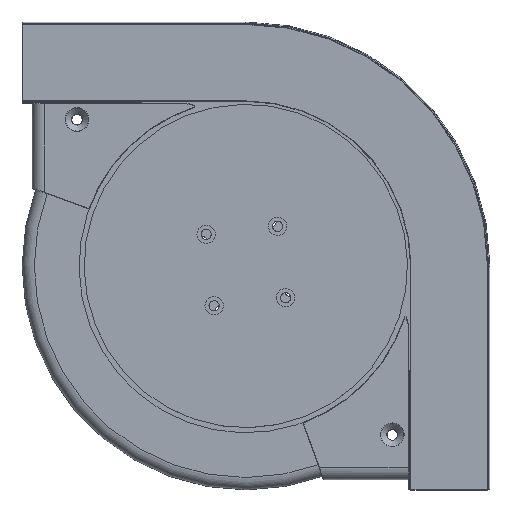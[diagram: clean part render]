
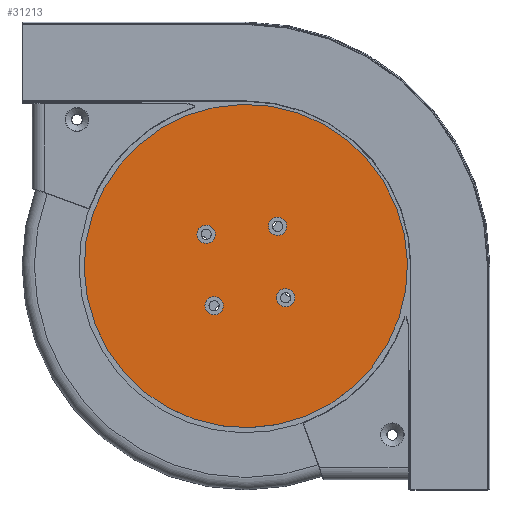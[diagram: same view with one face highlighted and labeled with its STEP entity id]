
A CAD part, top view. The second image highlights one B-rep face of the part: STEP entity #31213.
In plain terms, the highlighted planar face has unit normal (0, 0, 1).
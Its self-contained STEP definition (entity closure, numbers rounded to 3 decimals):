
#30897=CARTESIAN_POINT('',(-97.664,97.902,74.));
#30898=VERTEX_POINT('',#30897);
#30899=CARTESIAN_POINT('',(-100.475,94.387,74.));
#30900=DIRECTION('',(0.,0.,-1.0));
#30901=DIRECTION('',(0.625,0.781,0.));
#30902=AXIS2_PLACEMENT_3D('',#30899,#30900,#30901);
#30903=CIRCLE('',#30902,4.5);
#30904=EDGE_CURVE('',#30898,#30898,#30903,.T.);
#30957=CARTESIAN_POINT('',(-132.098,87.664,74.));
#30958=VERTEX_POINT('',#30957);
#30959=CARTESIAN_POINT('',(-135.613,90.475,74.));
#30960=DIRECTION('',(0.,0.,-1.0));
#30961=DIRECTION('',(0.781,-0.625,0.));
#30962=AXIS2_PLACEMENT_3D('',#30959,#30960,#30961);
#30963=CIRCLE('',#30962,4.5);
#30964=EDGE_CURVE('',#30958,#30958,#30963,.T.);
#31017=CARTESIAN_POINT('',(-142.336,122.098,74.));
#31018=VERTEX_POINT('',#31017);
#31019=CARTESIAN_POINT('',(-139.525,125.613,74.));
#31020=DIRECTION('',(0.,0.,-1.0));
#31021=DIRECTION('',(-0.625,-0.781,0.));
#31022=AXIS2_PLACEMENT_3D('',#31019,#31020,#31021);
#31023=CIRCLE('',#31022,4.5);
#31024=EDGE_CURVE('',#31018,#31018,#31023,.T.);
#31077=CARTESIAN_POINT('',(-107.902,132.336,74.));
#31078=VERTEX_POINT('',#31077);
#31079=CARTESIAN_POINT('',(-104.387,129.525,74.));
#31080=DIRECTION('',(0.,0.,-1.0));
#31081=DIRECTION('',(-0.781,0.625,0.));
#31082=AXIS2_PLACEMENT_3D('',#31079,#31080,#31081);
#31083=CIRCLE('',#31082,4.5);
#31084=EDGE_CURVE('',#31078,#31078,#31083,.T.);
#31178=CARTESIAN_POINT('',(-182.09,159.649,74.));
#31179=VERTEX_POINT('',#31178);
#31180=CARTESIAN_POINT('',(-120.,110.,74.));
#31181=DIRECTION('',(0.,0.,-1.0));
#31182=DIRECTION('',(0.781,-0.625,0.));
#31183=AXIS2_PLACEMENT_3D('',#31180,#31181,#31182);
#31184=CIRCLE('',#31183,79.5);
#31185=EDGE_CURVE('',#31179,#31179,#31184,.T.);
#31193=CARTESIAN_POINT('',(-120.,110.,74.));
#31194=DIRECTION('',(0.0,0.0,-1.0));
#31195=DIRECTION('',(0.781,-0.625,0.0));
#31196=AXIS2_PLACEMENT_3D('',#31193,#31194,#31195);
#31197=PLANE('',#31196);
#31198=ORIENTED_EDGE('',*,*,#31185,.F.);
#31199=EDGE_LOOP('',(#31198));
#31200=FACE_OUTER_BOUND('',#31199,.T.);
#31201=ORIENTED_EDGE('',*,*,#30904,.T.);
#31202=EDGE_LOOP('',(#31201));
#31203=FACE_BOUND('',#31202,.T.);
#31204=ORIENTED_EDGE('',*,*,#30964,.T.);
#31205=EDGE_LOOP('',(#31204));
#31206=FACE_BOUND('',#31205,.T.);
#31207=ORIENTED_EDGE('',*,*,#31024,.T.);
#31208=EDGE_LOOP('',(#31207));
#31209=FACE_BOUND('',#31208,.T.);
#31210=ORIENTED_EDGE('',*,*,#31084,.T.);
#31211=EDGE_LOOP('',(#31210));
#31212=FACE_BOUND('',#31211,.T.);
#31213=ADVANCED_FACE('',(#31200,#31203,#31206,#31209,#31212),#31197,.F.);
